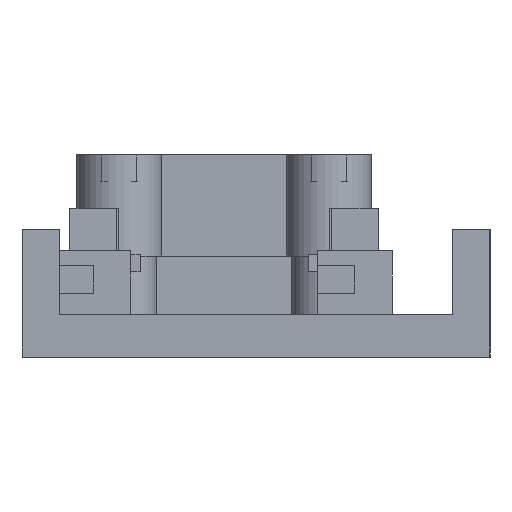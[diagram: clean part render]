
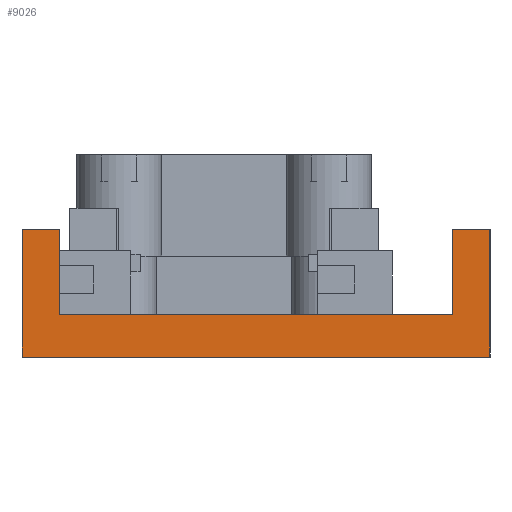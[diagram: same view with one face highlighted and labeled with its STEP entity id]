
A CAD part, left-side view. The second image highlights one B-rep face of the part: STEP entity #9026.
In plain terms, the highlighted planar face has unit normal (-1, 0, 0).
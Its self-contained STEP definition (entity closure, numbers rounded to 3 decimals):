
#52 = VERTEX_POINT('',#53);
#53 = CARTESIAN_POINT('',(-51.5,-1.1,0.));
#62 = PLANE('',#63);
#63 = AXIS2_PLACEMENT_3D('',#64,#65,#66);
#64 = CARTESIAN_POINT('',(-36.613,-1.1,0.));
#65 = DIRECTION('',(-0.,1.,0.));
#66 = DIRECTION('',(0.,0.,1.));
#74 = PLANE('',#75);
#75 = AXIS2_PLACEMENT_3D('',#76,#77,#78);
#76 = CARTESIAN_POINT('',(-36.613,-1.1,0.));
#77 = DIRECTION('',(0.,0.,1.));
#78 = DIRECTION('',(1.,0.,-0.));
#86 = EDGE_CURVE('',#87,#52,#89,.T.);
#87 = VERTEX_POINT('',#88);
#88 = CARTESIAN_POINT('',(-51.5,-1.1,12.));
#89 = SURFACE_CURVE('',#90,(#94,#101),.PCURVE_S1.);
#90 = LINE('',#91,#92);
#91 = CARTESIAN_POINT('',(-51.5,-1.1,12.));
#92 = VECTOR('',#93,1.);
#93 = DIRECTION('',(0.,0.,-1.));
#94 = PCURVE('',#62,#95);
#95 = DEFINITIONAL_REPRESENTATION('',(#96),#100);
#96 = LINE('',#97,#98);
#97 = CARTESIAN_POINT('',(12.,-14.888));
#98 = VECTOR('',#99,1.);
#99 = DIRECTION('',(-1.,0.));
#100 = ( GEOMETRIC_REPRESENTATION_CONTEXT(2) 
PARAMETRIC_REPRESENTATION_CONTEXT() REPRESENTATION_CONTEXT('2D SPACE',''
  ) );
#101 = PCURVE('',#102,#107);
#102 = PLANE('',#103);
#103 = AXIS2_PLACEMENT_3D('',#104,#105,#106);
#104 = CARTESIAN_POINT('',(-51.5,-1.1,0.));
#105 = DIRECTION('',(1.,0.,-0.));
#106 = DIRECTION('',(0.,0.,1.));
#107 = DEFINITIONAL_REPRESENTATION('',(#108),#112);
#108 = LINE('',#109,#110);
#109 = CARTESIAN_POINT('',(12.,0.));
#110 = VECTOR('',#111,1.);
#111 = DIRECTION('',(-1.,0.));
#112 = ( GEOMETRIC_REPRESENTATION_CONTEXT(2) 
PARAMETRIC_REPRESENTATION_CONTEXT() REPRESENTATION_CONTEXT('2D SPACE',''
  ) );
#130 = PLANE('',#131);
#131 = AXIS2_PLACEMENT_3D('',#132,#133,#134);
#132 = CARTESIAN_POINT('',(-36.613,-1.1,12.));
#133 = DIRECTION('',(0.,0.,1.));
#134 = DIRECTION('',(1.,0.,-0.));
#186 = PLANE('',#187);
#187 = AXIS2_PLACEMENT_3D('',#188,#189,#190);
#188 = CARTESIAN_POINT('',(-51.5,-1.1,4.));
#189 = DIRECTION('',(0.,0.,1.));
#190 = DIRECTION('',(1.,0.,-0.));
#228 = VERTEX_POINT('',#229);
#229 = CARTESIAN_POINT('',(-51.5,42.9,0.));
#245 = PLANE('',#246);
#246 = AXIS2_PLACEMENT_3D('',#247,#248,#249);
#247 = CARTESIAN_POINT('',(-36.613,42.9,0.));
#248 = DIRECTION('',(-0.,1.,0.));
#249 = DIRECTION('',(0.,0.,1.));
#257 = EDGE_CURVE('',#52,#228,#258,.T.);
#258 = SURFACE_CURVE('',#259,(#263,#270),.PCURVE_S1.);
#259 = LINE('',#260,#261);
#260 = CARTESIAN_POINT('',(-51.5,-1.1,0.));
#261 = VECTOR('',#262,1.);
#262 = DIRECTION('',(-0.,1.,0.));
#263 = PCURVE('',#74,#264);
#264 = DEFINITIONAL_REPRESENTATION('',(#265),#269);
#265 = LINE('',#266,#267);
#266 = CARTESIAN_POINT('',(-14.888,0.));
#267 = VECTOR('',#268,1.);
#268 = DIRECTION('',(0.,1.));
#269 = ( GEOMETRIC_REPRESENTATION_CONTEXT(2) 
PARAMETRIC_REPRESENTATION_CONTEXT() REPRESENTATION_CONTEXT('2D SPACE',''
  ) );
#270 = PCURVE('',#102,#271);
#271 = DEFINITIONAL_REPRESENTATION('',(#272),#276);
#272 = LINE('',#273,#274);
#273 = CARTESIAN_POINT('',(0.,0.));
#274 = VECTOR('',#275,1.);
#275 = DIRECTION('',(0.,-1.));
#276 = ( GEOMETRIC_REPRESENTATION_CONTEXT(2) 
PARAMETRIC_REPRESENTATION_CONTEXT() REPRESENTATION_CONTEXT('2D SPACE',''
  ) );
#9026 = ADVANCED_FACE('',(#9027),#102,.F.);
#9027 = FACE_BOUND('',#9028,.F.);
#9028 = EDGE_LOOP('',(#9029,#9030,#9053,#9081,#9109,#9132,#9160,#9181));
#9029 = ORIENTED_EDGE('',*,*,#257,.T.);
#9030 = ORIENTED_EDGE('',*,*,#9031,.T.);
#9031 = EDGE_CURVE('',#228,#9032,#9034,.T.);
#9032 = VERTEX_POINT('',#9033);
#9033 = CARTESIAN_POINT('',(-51.5,42.9,12.));
#9034 = SURFACE_CURVE('',#9035,(#9039,#9046),.PCURVE_S1.);
#9035 = LINE('',#9036,#9037);
#9036 = CARTESIAN_POINT('',(-51.5,42.9,0.));
#9037 = VECTOR('',#9038,1.);
#9038 = DIRECTION('',(0.,0.,1.));
#9039 = PCURVE('',#102,#9040);
#9040 = DEFINITIONAL_REPRESENTATION('',(#9041),#9045);
#9041 = LINE('',#9042,#9043);
#9042 = CARTESIAN_POINT('',(0.,-44.));
#9043 = VECTOR('',#9044,1.);
#9044 = DIRECTION('',(1.,0.));
#9045 = ( GEOMETRIC_REPRESENTATION_CONTEXT(2) 
PARAMETRIC_REPRESENTATION_CONTEXT() REPRESENTATION_CONTEXT('2D SPACE',''
  ) );
#9046 = PCURVE('',#245,#9047);
#9047 = DEFINITIONAL_REPRESENTATION('',(#9048),#9052);
#9048 = LINE('',#9049,#9050);
#9049 = CARTESIAN_POINT('',(0.,-14.888));
#9050 = VECTOR('',#9051,1.);
#9051 = DIRECTION('',(1.,0.));
#9052 = ( GEOMETRIC_REPRESENTATION_CONTEXT(2) 
PARAMETRIC_REPRESENTATION_CONTEXT() REPRESENTATION_CONTEXT('2D SPACE',''
  ) );
#9053 = ORIENTED_EDGE('',*,*,#9054,.F.);
#9054 = EDGE_CURVE('',#9055,#9032,#9057,.T.);
#9055 = VERTEX_POINT('',#9056);
#9056 = CARTESIAN_POINT('',(-51.5,39.4,12.));
#9057 = SURFACE_CURVE('',#9058,(#9062,#9069),.PCURVE_S1.);
#9058 = LINE('',#9059,#9060);
#9059 = CARTESIAN_POINT('',(-51.5,39.4,12.));
#9060 = VECTOR('',#9061,1.);
#9061 = DIRECTION('',(-0.,1.,0.));
#9062 = PCURVE('',#102,#9063);
#9063 = DEFINITIONAL_REPRESENTATION('',(#9064),#9068);
#9064 = LINE('',#9065,#9066);
#9065 = CARTESIAN_POINT('',(12.,-40.5));
#9066 = VECTOR('',#9067,1.);
#9067 = DIRECTION('',(0.,-1.));
#9068 = ( GEOMETRIC_REPRESENTATION_CONTEXT(2) 
PARAMETRIC_REPRESENTATION_CONTEXT() REPRESENTATION_CONTEXT('2D SPACE',''
  ) );
#9069 = PCURVE('',#9070,#9075);
#9070 = PLANE('',#9071);
#9071 = AXIS2_PLACEMENT_3D('',#9072,#9073,#9074);
#9072 = CARTESIAN_POINT('',(-36.613,39.4,12.));
#9073 = DIRECTION('',(0.,0.,1.));
#9074 = DIRECTION('',(1.,0.,-0.));
#9075 = DEFINITIONAL_REPRESENTATION('',(#9076),#9080);
#9076 = LINE('',#9077,#9078);
#9077 = CARTESIAN_POINT('',(-14.888,0.));
#9078 = VECTOR('',#9079,1.);
#9079 = DIRECTION('',(0.,1.));
#9080 = ( GEOMETRIC_REPRESENTATION_CONTEXT(2) 
PARAMETRIC_REPRESENTATION_CONTEXT() REPRESENTATION_CONTEXT('2D SPACE',''
  ) );
#9081 = ORIENTED_EDGE('',*,*,#9082,.F.);
#9082 = EDGE_CURVE('',#9083,#9055,#9085,.T.);
#9083 = VERTEX_POINT('',#9084);
#9084 = CARTESIAN_POINT('',(-51.5,39.4,4.));
#9085 = SURFACE_CURVE('',#9086,(#9090,#9097),.PCURVE_S1.);
#9086 = LINE('',#9087,#9088);
#9087 = CARTESIAN_POINT('',(-51.5,39.4,4.));
#9088 = VECTOR('',#9089,1.);
#9089 = DIRECTION('',(0.,0.,1.));
#9090 = PCURVE('',#102,#9091);
#9091 = DEFINITIONAL_REPRESENTATION('',(#9092),#9096);
#9092 = LINE('',#9093,#9094);
#9093 = CARTESIAN_POINT('',(4.,-40.5));
#9094 = VECTOR('',#9095,1.);
#9095 = DIRECTION('',(1.,0.));
#9096 = ( GEOMETRIC_REPRESENTATION_CONTEXT(2) 
PARAMETRIC_REPRESENTATION_CONTEXT() REPRESENTATION_CONTEXT('2D SPACE',''
  ) );
#9097 = PCURVE('',#9098,#9103);
#9098 = PLANE('',#9099);
#9099 = AXIS2_PLACEMENT_3D('',#9100,#9101,#9102);
#9100 = CARTESIAN_POINT('',(-51.5,39.4,4.));
#9101 = DIRECTION('',(-0.,1.,0.));
#9102 = DIRECTION('',(0.,0.,1.));
#9103 = DEFINITIONAL_REPRESENTATION('',(#9104),#9108);
#9104 = LINE('',#9105,#9106);
#9105 = CARTESIAN_POINT('',(0.,0.));
#9106 = VECTOR('',#9107,1.);
#9107 = DIRECTION('',(1.,0.));
#9108 = ( GEOMETRIC_REPRESENTATION_CONTEXT(2) 
PARAMETRIC_REPRESENTATION_CONTEXT() REPRESENTATION_CONTEXT('2D SPACE',''
  ) );
#9109 = ORIENTED_EDGE('',*,*,#9110,.F.);
#9110 = EDGE_CURVE('',#9111,#9083,#9113,.T.);
#9111 = VERTEX_POINT('',#9112);
#9112 = CARTESIAN_POINT('',(-51.5,2.4,4.));
#9113 = SURFACE_CURVE('',#9114,(#9118,#9125),.PCURVE_S1.);
#9114 = LINE('',#9115,#9116);
#9115 = CARTESIAN_POINT('',(-51.5,-1.1,4.));
#9116 = VECTOR('',#9117,1.);
#9117 = DIRECTION('',(-0.,1.,0.));
#9118 = PCURVE('',#102,#9119);
#9119 = DEFINITIONAL_REPRESENTATION('',(#9120),#9124);
#9120 = LINE('',#9121,#9122);
#9121 = CARTESIAN_POINT('',(4.,0.));
#9122 = VECTOR('',#9123,1.);
#9123 = DIRECTION('',(0.,-1.));
#9124 = ( GEOMETRIC_REPRESENTATION_CONTEXT(2) 
PARAMETRIC_REPRESENTATION_CONTEXT() REPRESENTATION_CONTEXT('2D SPACE',''
  ) );
#9125 = PCURVE('',#186,#9126);
#9126 = DEFINITIONAL_REPRESENTATION('',(#9127),#9131);
#9127 = LINE('',#9128,#9129);
#9128 = CARTESIAN_POINT('',(0.,0.));
#9129 = VECTOR('',#9130,1.);
#9130 = DIRECTION('',(0.,1.));
#9131 = ( GEOMETRIC_REPRESENTATION_CONTEXT(2) 
PARAMETRIC_REPRESENTATION_CONTEXT() REPRESENTATION_CONTEXT('2D SPACE',''
  ) );
#9132 = ORIENTED_EDGE('',*,*,#9133,.T.);
#9133 = EDGE_CURVE('',#9111,#9134,#9136,.T.);
#9134 = VERTEX_POINT('',#9135);
#9135 = CARTESIAN_POINT('',(-51.5,2.4,12.));
#9136 = SURFACE_CURVE('',#9137,(#9141,#9148),.PCURVE_S1.);
#9137 = LINE('',#9138,#9139);
#9138 = CARTESIAN_POINT('',(-51.5,2.4,4.));
#9139 = VECTOR('',#9140,1.);
#9140 = DIRECTION('',(0.,0.,1.));
#9141 = PCURVE('',#102,#9142);
#9142 = DEFINITIONAL_REPRESENTATION('',(#9143),#9147);
#9143 = LINE('',#9144,#9145);
#9144 = CARTESIAN_POINT('',(4.,-3.5));
#9145 = VECTOR('',#9146,1.);
#9146 = DIRECTION('',(1.,0.));
#9147 = ( GEOMETRIC_REPRESENTATION_CONTEXT(2) 
PARAMETRIC_REPRESENTATION_CONTEXT() REPRESENTATION_CONTEXT('2D SPACE',''
  ) );
#9148 = PCURVE('',#9149,#9154);
#9149 = PLANE('',#9150);
#9150 = AXIS2_PLACEMENT_3D('',#9151,#9152,#9153);
#9151 = CARTESIAN_POINT('',(-36.613,2.4,4.));
#9152 = DIRECTION('',(-0.,1.,0.));
#9153 = DIRECTION('',(0.,0.,1.));
#9154 = DEFINITIONAL_REPRESENTATION('',(#9155),#9159);
#9155 = LINE('',#9156,#9157);
#9156 = CARTESIAN_POINT('',(0.,-14.888));
#9157 = VECTOR('',#9158,1.);
#9158 = DIRECTION('',(1.,0.));
#9159 = ( GEOMETRIC_REPRESENTATION_CONTEXT(2) 
PARAMETRIC_REPRESENTATION_CONTEXT() REPRESENTATION_CONTEXT('2D SPACE',''
  ) );
#9160 = ORIENTED_EDGE('',*,*,#9161,.F.);
#9161 = EDGE_CURVE('',#87,#9134,#9162,.T.);
#9162 = SURFACE_CURVE('',#9163,(#9167,#9174),.PCURVE_S1.);
#9163 = LINE('',#9164,#9165);
#9164 = CARTESIAN_POINT('',(-51.5,-1.1,12.));
#9165 = VECTOR('',#9166,1.);
#9166 = DIRECTION('',(-0.,1.,0.));
#9167 = PCURVE('',#102,#9168);
#9168 = DEFINITIONAL_REPRESENTATION('',(#9169),#9173);
#9169 = LINE('',#9170,#9171);
#9170 = CARTESIAN_POINT('',(12.,0.));
#9171 = VECTOR('',#9172,1.);
#9172 = DIRECTION('',(0.,-1.));
#9173 = ( GEOMETRIC_REPRESENTATION_CONTEXT(2) 
PARAMETRIC_REPRESENTATION_CONTEXT() REPRESENTATION_CONTEXT('2D SPACE',''
  ) );
#9174 = PCURVE('',#130,#9175);
#9175 = DEFINITIONAL_REPRESENTATION('',(#9176),#9180);
#9176 = LINE('',#9177,#9178);
#9177 = CARTESIAN_POINT('',(-14.888,0.));
#9178 = VECTOR('',#9179,1.);
#9179 = DIRECTION('',(0.,1.));
#9180 = ( GEOMETRIC_REPRESENTATION_CONTEXT(2) 
PARAMETRIC_REPRESENTATION_CONTEXT() REPRESENTATION_CONTEXT('2D SPACE',''
  ) );
#9181 = ORIENTED_EDGE('',*,*,#86,.T.);
